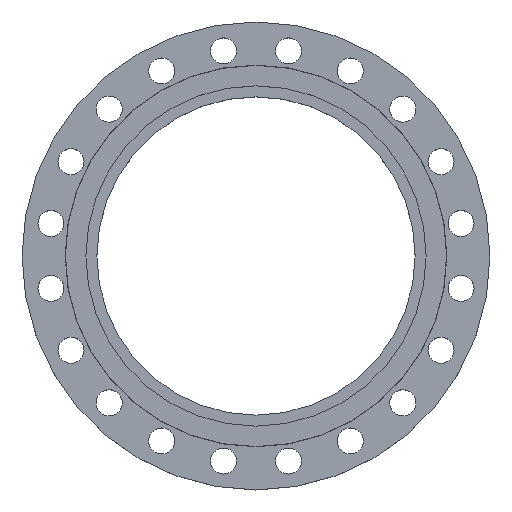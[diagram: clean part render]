
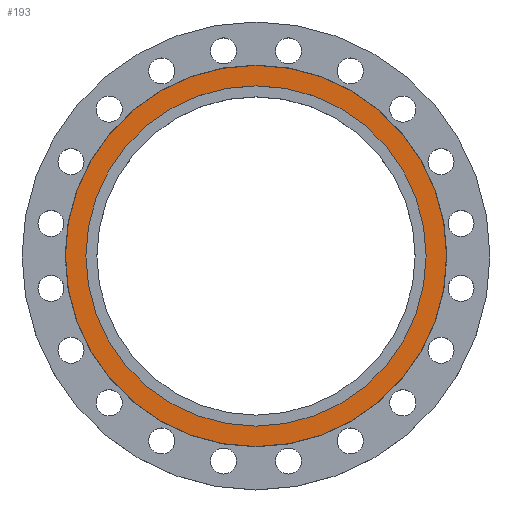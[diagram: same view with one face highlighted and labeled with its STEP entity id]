
A CAD part, top view. The second image highlights one B-rep face of the part: STEP entity #193.
In plain terms, the highlighted planar face has unit normal (0, 0, 1).
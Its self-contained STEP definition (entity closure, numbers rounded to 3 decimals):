
#8 = DIRECTION ( 'NONE',  ( -1., 0., 0. ) ) ;
#128 = ORIENTED_EDGE ( 'NONE', *, *, #224, .F. ) ;
#193 = ADVANCED_FACE ( 'NONE', ( #361, #998 ), #1628, .T. ) ;
#222 = CARTESIAN_POINT ( 'NONE',  ( 0., 0., 0. ) ) ;
#224 = EDGE_CURVE ( 'NONE', #269, #1532, #490, .T. ) ;
#269 = VERTEX_POINT ( 'NONE', #859 ) ;
#270 = DIRECTION ( 'NONE',  ( -1., 0., 0. ) ) ;
#361 = FACE_OUTER_BOUND ( 'NONE', #1432, .T. ) ;
#362 = CARTESIAN_POINT ( 'NONE',  ( 0., 0., 0. ) ) ;
#441 = VERTEX_POINT ( 'NONE', #945 ) ;
#477 = AXIS2_PLACEMENT_3D ( 'NONE', #762, #1386, #8 ) ;
#487 = AXIS2_PLACEMENT_3D ( 'NONE', #222, #839, #1465 ) ;
#490 = CIRCLE ( 'NONE', #494, 307.5 ) ;
#494 = AXIS2_PLACEMENT_3D ( 'NONE', #1312, #1923, #518 ) ;
#518 = DIRECTION ( 'NONE',  ( -1., 0., 0. ) ) ;
#585 = VERTEX_POINT ( 'NONE', #678 ) ;
#642 = AXIS2_PLACEMENT_3D ( 'NONE', #362, #999, #1629 ) ;
#645 = CIRCLE ( 'NONE', #642, 274.5 ) ;
#678 = CARTESIAN_POINT ( 'NONE',  ( -274.5, 0., 0. ) ) ;
#762 = CARTESIAN_POINT ( 'NONE',  ( 0., 0., 0. ) ) ;
#822 = CARTESIAN_POINT ( 'NONE',  ( -307.5, 0., 0. ) ) ;
#839 = DIRECTION ( 'NONE',  ( 0., 0., 1. ) ) ;
#845 = EDGE_LOOP ( 'NONE', ( #1376, #1080 ) ) ;
#859 = CARTESIAN_POINT ( 'NONE',  ( 307.5, 0., 0. ) ) ;
#892 = EDGE_CURVE ( 'NONE', #585, #441, #1828, .T. ) ;
#945 = CARTESIAN_POINT ( 'NONE',  ( 274.5, 0., 0. ) ) ;
#998 = FACE_BOUND ( 'NONE', #845, .T. ) ;
#999 = DIRECTION ( 'NONE',  ( 0., 0., -1. ) ) ;
#1051 = CARTESIAN_POINT ( 'NONE',  ( 0., 0., 0. ) ) ;
#1080 = ORIENTED_EDGE ( 'NONE', *, *, #1953, .T. ) ;
#1285 = EDGE_CURVE ( 'NONE', #1532, #269, #1648, .T. ) ;
#1312 = CARTESIAN_POINT ( 'NONE',  ( 0., 0., 0. ) ) ;
#1376 = ORIENTED_EDGE ( 'NONE', *, *, #892, .T. ) ;
#1386 = DIRECTION ( 'NONE',  ( 0., 0., -1. ) ) ;
#1432 = EDGE_LOOP ( 'NONE', ( #1482, #128 ) ) ;
#1465 = DIRECTION ( 'NONE',  ( 1., 0., 0. ) ) ;
#1482 = ORIENTED_EDGE ( 'NONE', *, *, #1285, .F. ) ;
#1532 = VERTEX_POINT ( 'NONE', #822 ) ;
#1628 = PLANE ( 'NONE',  #487 ) ;
#1629 = DIRECTION ( 'NONE',  ( -1., 0., 0. ) ) ;
#1646 = AXIS2_PLACEMENT_3D ( 'NONE', #1051, #1680, #270 ) ;
#1648 = CIRCLE ( 'NONE', #1646, 307.5 ) ;
#1680 = DIRECTION ( 'NONE',  ( 0., 0., -1. ) ) ;
#1828 = CIRCLE ( 'NONE', #477, 274.5 ) ;
#1923 = DIRECTION ( 'NONE',  ( 0., 0., -1. ) ) ;
#1953 = EDGE_CURVE ( 'NONE', #441, #585, #645, .T. ) ;
